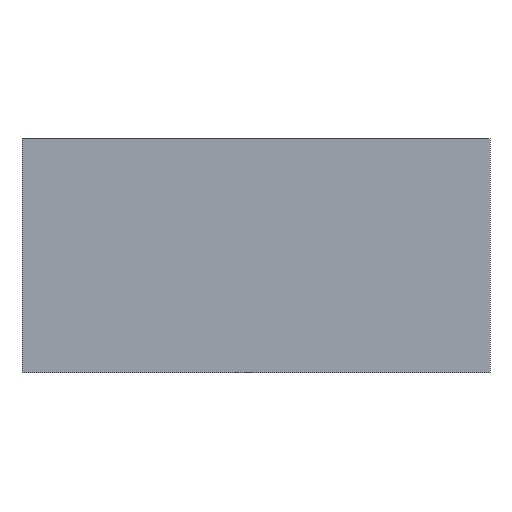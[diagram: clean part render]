
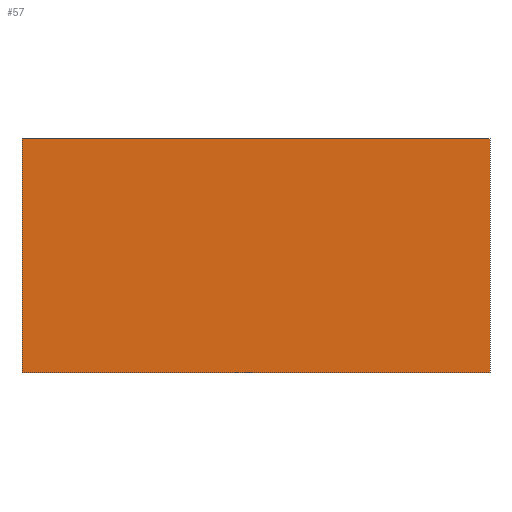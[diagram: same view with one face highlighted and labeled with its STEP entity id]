
A CAD part, front view. The second image highlights one B-rep face of the part: STEP entity #57.
In plain terms, the highlighted planar face has unit normal (0, -1, 0).
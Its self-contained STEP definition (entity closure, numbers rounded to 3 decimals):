
#21 = EDGE_CURVE('',#22,#24,#26,.T.);
#22 = VERTEX_POINT('',#23);
#23 = CARTESIAN_POINT('',(-45.8,98.,5.));
#24 = VERTEX_POINT('',#25);
#25 = CARTESIAN_POINT('',(-45.8,98.,8.));
#26 = LINE('',#27,#28);
#27 = CARTESIAN_POINT('',(-45.8,98.,5.));
#28 = VECTOR('',#29,1.);
#29 = DIRECTION('',(0.,0.,1.));
#57 = ADVANCED_FACE('',(#58),#83,.F.);
#58 = FACE_BOUND('',#59,.F.);
#59 = EDGE_LOOP('',(#60,#68,#69,#77));
#60 = ORIENTED_EDGE('',*,*,#61,.F.);
#61 = EDGE_CURVE('',#22,#62,#64,.T.);
#62 = VERTEX_POINT('',#63);
#63 = CARTESIAN_POINT('',(-39.8,98.,5.));
#64 = LINE('',#65,#66);
#65 = CARTESIAN_POINT('',(-45.8,98.,5.));
#66 = VECTOR('',#67,1.);
#67 = DIRECTION('',(1.,0.,0.));
#68 = ORIENTED_EDGE('',*,*,#21,.T.);
#69 = ORIENTED_EDGE('',*,*,#70,.T.);
#70 = EDGE_CURVE('',#24,#71,#73,.T.);
#71 = VERTEX_POINT('',#72);
#72 = CARTESIAN_POINT('',(-39.8,98.,8.));
#73 = LINE('',#74,#75);
#74 = CARTESIAN_POINT('',(-45.8,98.,8.));
#75 = VECTOR('',#76,1.);
#76 = DIRECTION('',(1.,0.,0.));
#77 = ORIENTED_EDGE('',*,*,#78,.F.);
#78 = EDGE_CURVE('',#62,#71,#79,.T.);
#79 = LINE('',#80,#81);
#80 = CARTESIAN_POINT('',(-39.8,98.,5.));
#81 = VECTOR('',#82,1.);
#82 = DIRECTION('',(0.,0.,1.));
#83 = PLANE('',#84);
#84 = AXIS2_PLACEMENT_3D('',#85,#86,#87);
#85 = CARTESIAN_POINT('',(-45.8,98.,5.));
#86 = DIRECTION('',(0.,1.,0.));
#87 = DIRECTION('',(0.,0.,1.));
